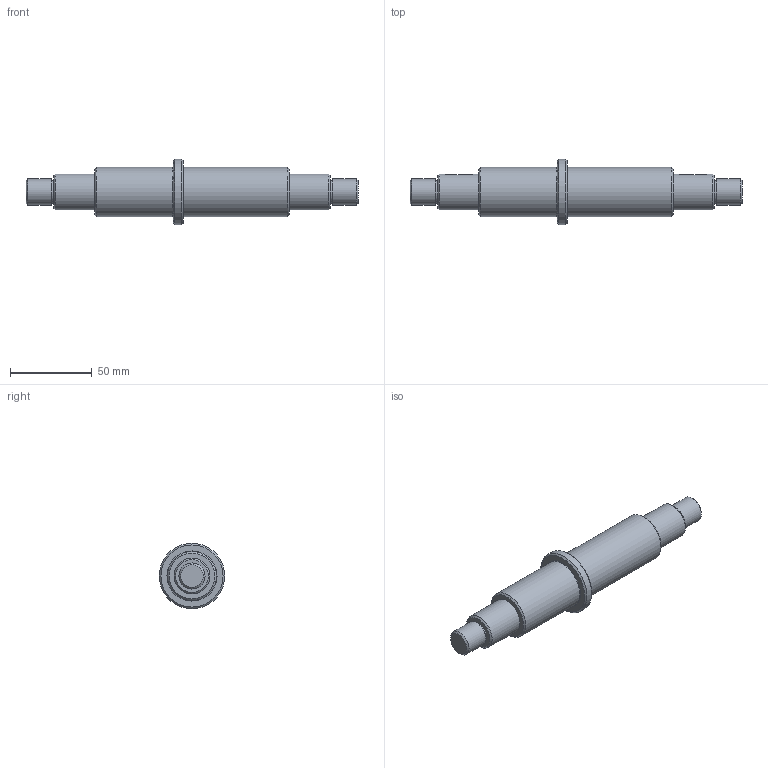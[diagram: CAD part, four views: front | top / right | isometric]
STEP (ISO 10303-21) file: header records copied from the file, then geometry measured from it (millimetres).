
FILE_DESCRIPTION(/* description */ (''),/* implementation_level */ '2;1');
FILE_NAME(/* name */ '',/* time_stamp */ '2026-07-01T11:13:43+09:00',/* author */ ('jhkim'),/* organization */ (''),/* preprocessor_version */ 'ST-DEVELOPER v20.1',/* originating_system */ 'Autodesk Inventor 2027',/* authorisation */ '');
FILE_SCHEMA (('AUTOMOTIVE_DESIGN { 1 0 10303 214 3 1 1 }'));
Length unit declared in the file: millimetre
Products named in the file (1): 축
Bounding box: 203 x 40 x 40 mm (x, y, z)
Volume: 112032.1 mm3; surface area: 19113.7 mm2
Topology: 1 solids, 1 shells, 39 faces, 85 edges, 58 vertices
Faces by surface type: plane 16, cylinder 13, cone 8, torus 2
Full cylindrical faces by diameter (mm): 14 x2, 16 x2, 22 x2, 30 x2, 40 x1
Entity records: 1194 total; most frequent: CARTESIAN_POINT 255, DIRECTION 201, ORIENTED_EDGE 170, EDGE_CURVE 85, AXIS2_PLACEMENT_3D 84, VERTEX_POINT 58, EDGE_LOOP 49, CIRCLE 44
